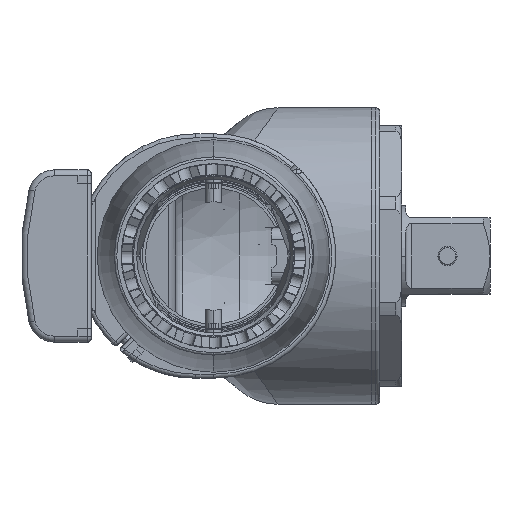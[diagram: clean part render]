
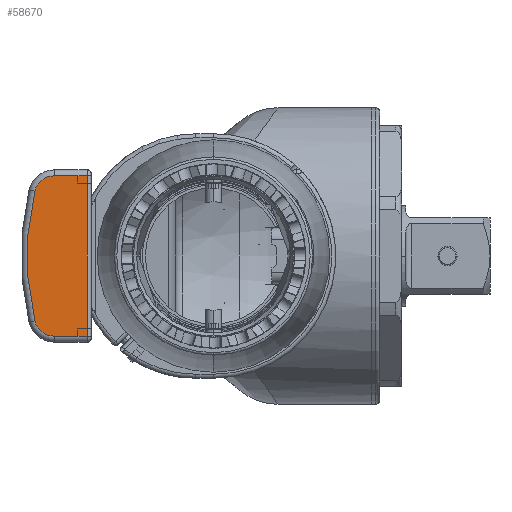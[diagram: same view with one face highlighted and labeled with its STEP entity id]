
A CAD part, left-side view. The second image highlights one B-rep face of the part: STEP entity #58670.
In plain terms, the highlighted planar face has unit normal (-1, 0, 0).
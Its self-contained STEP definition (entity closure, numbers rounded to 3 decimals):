
#7364 = DIRECTION ( 'NONE',  ( 0., 1., 0. ) ) ;
#7365 = VECTOR ( 'NONE', #7364, 1000. ) ;
#7366 = CARTESIAN_POINT ( 'NONE',  ( -263.3, 30.5, 20. ) ) ;
#7367 = LINE ( 'NONE', #7366, #7365 ) ;
#7383 = FACE_OUTER_BOUND ( 'NONE', #58658, .T. ) ;
#7425 = DIRECTION ( 'NONE',  ( 0., 0., -1. ) ) ;
#7426 = DIRECTION ( 'NONE',  ( 1., 0., 0. ) ) ;
#7427 = CARTESIAN_POINT ( 'NONE',  ( -263.3, 30.5, -21.5 ) ) ;
#7428 = AXIS2_PLACEMENT_3D ( 'NONE', #7427, #7426, #7425 ) ;
#7430 = PLANE ( 'NONE',  #7428 ) ;
#7516 = DIRECTION ( 'NONE',  ( 0., -1., 0. ) ) ;
#7517 = VECTOR ( 'NONE', #7516, 1000. ) ;
#7518 = CARTESIAN_POINT ( 'NONE',  ( -263.3, 30.5, -20. ) ) ;
#7519 = LINE ( 'NONE', #7518, #7517 ) ;
#25702 = DIRECTION ( 'NONE',  ( 0., 0., -1. ) ) ;
#25704 = DIRECTION ( 'NONE',  ( -1., 0., 0. ) ) ;
#25706 = CARTESIAN_POINT ( 'NONE',  ( -263.3, 39.703, 15. ) ) ;
#25707 = AXIS2_PLACEMENT_3D ( 'NONE', #25706, #25704, #25702 ) ;
#25708 = CIRCLE ( 'NONE', #25707, 5. ) ;
#25741 = DIRECTION ( 'NONE',  ( 0., 0., -1. ) ) ;
#25744 = DIRECTION ( 'NONE',  ( -1., 0., 0. ) ) ;
#25745 = CARTESIAN_POINT ( 'NONE',  ( -263.3, -22., 0. ) ) ;
#25746 = AXIS2_PLACEMENT_3D ( 'NONE', #25745, #25744, #25741 ) ;
#25747 = CIRCLE ( 'NONE', #25746, 68.5 ) ;
#25752 = CARTESIAN_POINT ( 'NONE',  ( -263.3, 44.561, -16.181 ) ) ;
#25859 = CARTESIAN_POINT ( 'NONE',  ( -263.3, 44.561, 16.181 ) ) ;
#25884 = CARTESIAN_POINT ( 'NONE',  ( -263.3, 39.703, 20. ) ) ;
#26220 = DIRECTION ( 'NONE',  ( 0., 0., -1. ) ) ;
#26221 = DIRECTION ( 'NONE',  ( -1., 0., 0. ) ) ;
#26222 = CARTESIAN_POINT ( 'NONE',  ( -263.3, 39.703, -15. ) ) ;
#26224 = AXIS2_PLACEMENT_3D ( 'NONE', #26222, #26221, #26220 ) ;
#26225 = CIRCLE ( 'NONE', #26224, 5. ) ;
#26229 = CARTESIAN_POINT ( 'NONE',  ( -263.3, 39.703, -20. ) ) ;
#27300 = CARTESIAN_POINT ( 'NONE',  ( -263.3, 31.5, -20. ) ) ;
#27302 = DIRECTION ( 'NONE',  ( 0., 0., 1. ) ) ;
#27304 = VECTOR ( 'NONE', #27302, 1000. ) ;
#27305 = CARTESIAN_POINT ( 'NONE',  ( -263.3, 31.5, -21.5 ) ) ;
#27307 = LINE ( 'NONE', #27305, #27304 ) ;
#27424 = CARTESIAN_POINT ( 'NONE',  ( -263.3, 31.5, 20. ) ) ;
#58640 = ORIENTED_EDGE ( 'NONE', *, *, #62023, .T. ) ;
#58656 = EDGE_CURVE ( 'NONE', #62321, #62040, #7367, .T. ) ;
#58658 = EDGE_LOOP ( 'NONE', ( #58662, #58661, #58667, #58640, #58707, #58702 ) ) ;
#58661 = ORIENTED_EDGE ( 'NONE', *, *, #62301, .T. ) ;
#58662 = ORIENTED_EDGE ( 'NONE', *, *, #58709, .T. ) ;
#58667 = ORIENTED_EDGE ( 'NONE', *, *, #58656, .T. ) ;
#58670 = ADVANCED_FACE ( 'NONE', ( #7383 ), #7430, .F. ) ;
#58702 = ORIENTED_EDGE ( 'NONE', *, *, #62099, .T. ) ;
#58707 = ORIENTED_EDGE ( 'NONE', *, *, #62033, .T. ) ;
#58709 = EDGE_CURVE ( 'NONE', #62097, #62302, #7519, .T. ) ;
#62023 = EDGE_CURVE ( 'NONE', #62040, #62047, #25708, .T. ) ;
#62031 = VERTEX_POINT ( 'NONE', #25752 ) ;
#62033 = EDGE_CURVE ( 'NONE', #62047, #62031, #25747, .T. ) ;
#62040 = VERTEX_POINT ( 'NONE', #25884 ) ;
#62047 = VERTEX_POINT ( 'NONE', #25859 ) ;
#62097 = VERTEX_POINT ( 'NONE', #26229 ) ;
#62099 = EDGE_CURVE ( 'NONE', #62031, #62097, #26225, .T. ) ;
#62301 = EDGE_CURVE ( 'NONE', #62302, #62321, #27307, .T. ) ;
#62302 = VERTEX_POINT ( 'NONE', #27300 ) ;
#62321 = VERTEX_POINT ( 'NONE', #27424 ) ;
